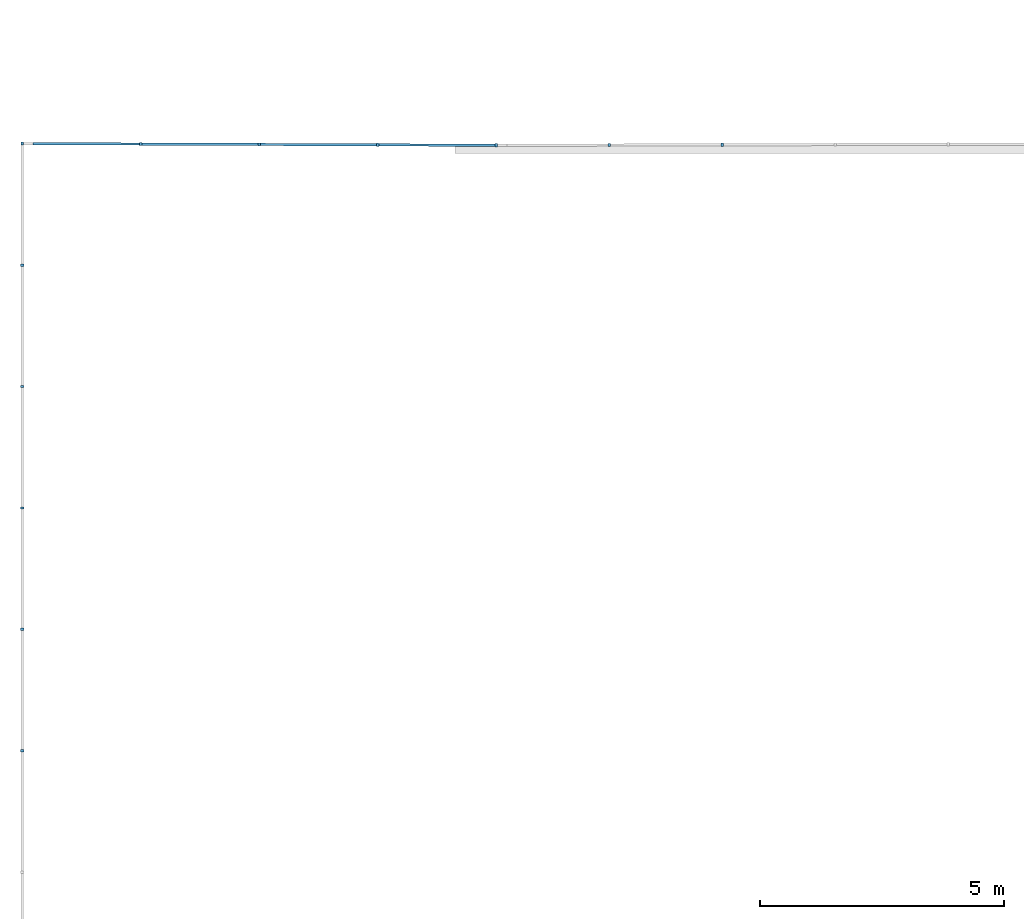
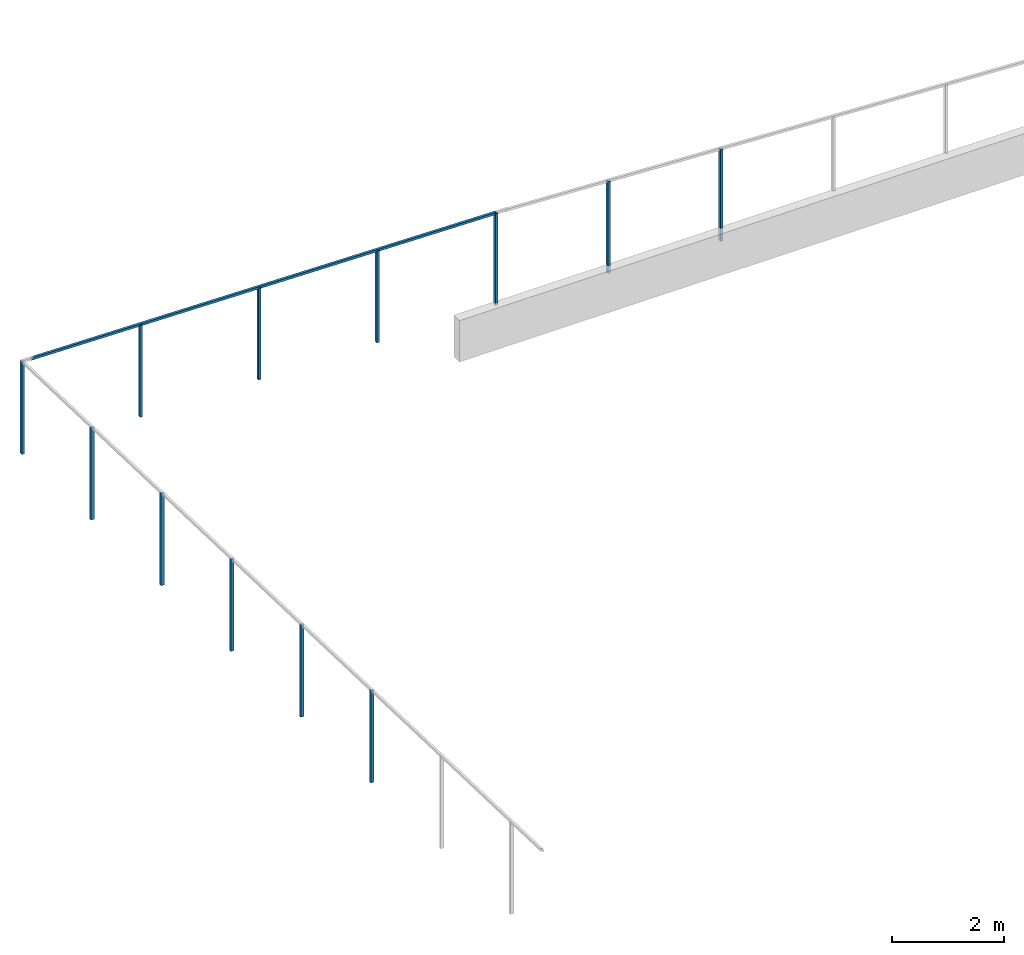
# One storey, part 62 of 91: 13 building element parts, 1 element without a shape of its own.
"""IFC2X3 building model written with IfcOpenShell, lengths in metres."""

from ifc_helpers import new_model, entity, si_unit, converted_unit, derived_unit, money_unit, direction, frame, origin_with_axes, place, context, subcontext, project, spatial, faceted_brep, material, type_object, element, aggregate, save


model = new_model("IFC2X3")

# Units and contexts
model_context = context("Model", 3, precision=1e-05, world=origin_with_axes(), true_north=direction((0.0, 1.0)))
body_context = subcontext(model_context, "Body", "Model", "MODEL_VIEW")
ifc_project = project(units=[si_unit("LENGTHUNIT", "METRE"), si_unit("AREAUNIT", "SQUARE_METRE"), si_unit("VOLUMEUNIT", "CUBIC_METRE"), converted_unit("PLANEANGLEUNIT", "DEGREE", entity("IfcPlaneAngleMeasure", 0.0174532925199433), si_unit("PLANEANGLEUNIT", "RADIAN"), dimensions=[0, 0, 0, 0, 0, 0, 0]), money_unit("EUR"), converted_unit("TIMEUNIT", "Year", entity("IfcTimeMeasure", 31557600.0), si_unit("TIMEUNIT", "SECOND"), dimensions=[0, 0, 1, 0, 0, 0, 0]), si_unit("MASSUNIT", "GRAM", prefix="KILO"), si_unit("THERMODYNAMICTEMPERATUREUNIT", "DEGREE_CELSIUS"), si_unit("LUMINOUSINTENSITYUNIT", "LUMEN"), si_unit("ENERGYUNIT", "JOULE", prefix="MEGA"), derived_unit("THERMALCONDUCTANCEUNIT", [(si_unit("POWERUNIT", "WATT"), 1), (si_unit("LENGTHUNIT", "METRE"), -1), (si_unit("THERMODYNAMICTEMPERATUREUNIT", "KELVIN"), -1)]), derived_unit("SPECIFICHEATCAPACITYUNIT", [(si_unit("ENERGYUNIT", "JOULE"), 1), (si_unit("MASSUNIT", "GRAM", prefix="KILO"), -1), (si_unit("THERMODYNAMICTEMPERATUREUNIT", "KELVIN"), -1)]), derived_unit("MASSDENSITYUNIT", [(si_unit("MASSUNIT", "GRAM", prefix="KILO"), 1), (si_unit("VOLUMEUNIT", "CUBIC_METRE"), -1)])], contexts=[model_context])

# Site, building, storey
site_placement = place(None, origin_with_axes())
site = spatial("IfcSite", under=ifc_project, at=site_placement, Name="Site", CompositionType="ELEMENT")
building_placement = place(site_placement, origin_with_axes())
building = spatial("IfcBuilding", under=site, at=building_placement, Name="Bâtiment", CompositionType="ELEMENT")
storey_placement = place(building_placement, origin_with_axes())
storey = spatial("IfcBuildingStorey", under=building, at=storey_placement, Name="RDC", CompositionType="ELEMENT", Elevation=0.0)

# Proxy, building element parts
building_element_proxy_type = type_object("IfcBuildingElementProxyType", Name="Type de garde-corps", PredefinedType="NOTDEFINED")
proxy_placement = place(storey_placement, frame((79.63337255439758, 3.614023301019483, -2.37161404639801), z_axis=(0.0, 0.0, 1.0), x_axis=(1.0, 0.0, 0.0)))
proxy = element("IfcBuildingElementProxy", 1, at=proxy_placement, inside=storey, type_object=building_element_proxy_type, Name="RAMPE-004")
ifc_material = material(Name="Acier Galva")
building_element_part_1_placement = place(proxy_placement, origin_with_axes())
building_element_part_1 = element("IfcBuildingElementPart", 2, at=building_element_part_1_placement, material=ifc_material, Name="Acier Galva", context=body_context, shape_type="Brep", body=[
    faceted_brep([(-69.99485317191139, 3.37907067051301, 3.22141820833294), (-69.9946994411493, 3.313070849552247, 3.221415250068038), (-69.9946994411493, 3.313070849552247, 5.221415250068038), (-69.99485317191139, 3.37907067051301, 5.22141820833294), (-69.9448533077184, 3.379187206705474, 3.219778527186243), (-69.94469957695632, 3.313187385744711, 3.219775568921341), (-69.94469957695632, 3.313187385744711, 5.219775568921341), (-69.9448533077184, 3.379187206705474, 5.219778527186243)], [[[0, 1, 2, 3]], [[0, 4, 5, 1]], [[1, 5, 6, 2]], [[3, 2, 6, 7]], [[4, 0, 3, 7]], [[5, 4, 7, 6]]]),
])
building_element_part_2_placement = place(proxy_placement, origin_with_axes())
building_element_part_2 = element("IfcBuildingElementPart", 3, at=building_element_part_2_placement, material=ifc_material, Name="Acier Galva", context=body_context, shape_type="Brep", body=[
    faceted_brep([(-79.71945202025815, 3.412831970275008, 3.371441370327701), (-79.7196719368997, 3.346832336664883, 3.372511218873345), (-79.71967605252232, 3.346832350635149, 5.37175721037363), (-79.6694523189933, 3.412659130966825, 3.371056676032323), (-79.66967223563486, 3.346659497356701, 3.372126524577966), (-79.66967635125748, 3.346659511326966, 5.37175721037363), (-79.71944790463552, 3.412831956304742, 5.37175721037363), (-79.66944820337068, 3.41265911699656, 5.37175721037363)], [[[0, 1, 2]], [[0, 3, 4, 1]], [[1, 4, 5, 2]], [[0, 2, 6]], [[3, 0, 6, 7]], [[4, 3, 7]], [[4, 7, 5]], [[6, 2, 5, 7]]]),
])
building_element_part_3_placement = place(proxy_placement, origin_with_axes())
building_element_part_3 = element("IfcBuildingElementPart", 4, at=building_element_part_3_placement, material=ifc_material, Name="Acier Galva", context=body_context, shape_type="Brep", body=[
    faceted_brep([(-65.35998740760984, 3.389873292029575, 2.989598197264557), (-65.35983357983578, 3.32387347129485, 2.989598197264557), (-65.35983357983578, 3.323873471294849, 4.989598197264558), (-65.35998740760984, 3.389873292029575, 4.989598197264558), (-65.30998754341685, 3.389989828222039, 2.987092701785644), (-65.30983371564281, 3.323990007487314, 2.987092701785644), (-65.30983371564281, 3.323990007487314, 4.987092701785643), (-65.30998754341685, 3.389989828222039, 4.987092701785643)], [[[0, 1, 2, 3]], [[0, 4, 5, 1]], [[1, 5, 6, 2]], [[3, 2, 6, 7]], [[4, 0, 3, 7]], [[5, 4, 7, 6]]]),
])
building_element_part_4_placement = place(proxy_placement, origin_with_axes())
building_element_part_4 = element("IfcBuildingElementPart", 5, at=building_element_part_4_placement, material=ifc_material, Name="Acier Galva", context=body_context, shape_type="Brep", body=[
    faceted_brep([(-67.6774203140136, 3.384471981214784, 3.105724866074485), (-67.67726648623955, 3.318472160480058, 3.105724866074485), (-67.67726648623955, 3.318472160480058, 5.105724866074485), (-67.6774203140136, 3.384471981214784, 5.105724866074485), (-67.62742044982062, 3.384588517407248, 3.103219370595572), (-67.62726662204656, 3.318588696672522, 3.103219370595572), (-67.62726662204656, 3.318588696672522, 5.103219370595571), (-67.62742044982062, 3.384588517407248, 5.103219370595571)], [[[0, 1, 2, 3]], [[0, 4, 5, 1]], [[1, 5, 6, 2]], [[3, 2, 6, 7]], [[4, 0, 3, 7]], [[5, 4, 7, 6]]]),
])
building_element_part_5_placement = place(proxy_placement, origin_with_axes())
building_element_part_5 = element("IfcBuildingElementPart", 6, at=building_element_part_5_placement, material=ifc_material, Name="Acier Galva", context=body_context, shape_type="Brep", body=[
    faceted_brep([(-69.96956859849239, 3.371129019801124, 5.245594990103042), (-69.96995600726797, 3.371129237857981, 5.195594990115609), (-79.51947680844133, 3.404140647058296, 5.343588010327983), (-69.96959674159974, 3.32112881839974, 5.245594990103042), (-69.96998415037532, 3.321129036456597, 5.195594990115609), (-79.5196496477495, 3.354140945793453, 5.343588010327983), (-79.46947710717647, 3.403967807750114, 5.392819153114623), (-79.46964994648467, 3.353968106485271, 5.392819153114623)], [[[0, 1, 2]], [[0, 3, 4, 1]], [[1, 5, 2]], [[0, 2, 6]], [[3, 0, 6]], [[4, 3, 7]], [[1, 4, 5]], [[6, 2, 5, 7]], [[3, 6, 7]], [[4, 7, 5]]]),
])
building_element_part_6_placement = place(proxy_placement, origin_with_axes())
building_element_part_6 = element("IfcBuildingElementPart", 7, at=building_element_part_6_placement, material=ifc_material, Name="Acier Galva", context=body_context, shape_type="Brep", body=[
    faceted_brep([(-74.8571708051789, 3.396024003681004, 3.296338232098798), (-74.8573989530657, 3.33002439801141, 3.296338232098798), (-74.8573989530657, 3.33002439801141, 5.296338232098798), (-74.8571708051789, 3.396024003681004, 5.296338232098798), (-74.80717110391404, 3.395851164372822, 3.295563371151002), (-74.80739925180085, 3.329851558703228, 3.295563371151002), (-74.80739925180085, 3.329851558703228, 5.295563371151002), (-74.80717110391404, 3.395851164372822, 5.295563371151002)], [[[0, 1, 2, 3]], [[0, 4, 5, 1]], [[1, 5, 6, 2]], [[3, 2, 6, 7]], [[4, 0, 3, 7]], [[5, 4, 7, 6]]]),
])
building_element_part_7_placement = place(proxy_placement, origin_with_axes())
building_element_part_7 = element("IfcBuildingElementPart", 8, at=building_element_part_7_placement, material=ifc_material, Name="Acier Galva", context=body_context, shape_type="Brep", body=[
    faceted_brep([(-77.28836725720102, 3.404428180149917, 3.334015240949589), (-77.28859540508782, 3.338428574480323, 3.334015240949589), (-77.28859540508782, 3.338428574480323, 5.334015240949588), (-77.28836725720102, 3.404428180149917, 5.334015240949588), (-77.23836755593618, 3.404255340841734, 3.333240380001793), (-77.23859570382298, 3.338255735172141, 3.333240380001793), (-77.23859570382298, 3.338255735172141, 5.333240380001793), (-77.23836755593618, 3.404255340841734, 5.333240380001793)], [[[0, 1, 2, 3]], [[0, 4, 5, 1]], [[1, 5, 6, 2]], [[3, 2, 6, 7]], [[4, 0, 3, 7]], [[5, 4, 7, 6]]]),
])
building_element_part_8_placement = place(proxy_placement, origin_with_axes())
building_element_part_8 = element("IfcBuildingElementPart", 9, at=building_element_part_8_placement, material=ifc_material, Name="Acier Galva", context=body_context, shape_type="Brep", body=[
    faceted_brep([(-72.42597435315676, 3.387619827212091, 3.258661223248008), (-72.42620250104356, 3.321620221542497, 3.258661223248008), (-72.42620250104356, 3.321620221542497, 5.258661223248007), (-72.42597435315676, 3.387619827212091, 5.258661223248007), (-72.37597465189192, 3.387446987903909, 3.257886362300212), (-72.37620279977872, 3.321447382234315, 3.257886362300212), (-72.37620279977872, 3.321447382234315, 5.257886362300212), (-72.37597465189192, 3.387446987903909, 5.257886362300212)], [[[0, 1, 2, 3]], [[0, 4, 5, 1]], [[1, 5, 6, 2]], [[3, 2, 6, 7]], [[4, 0, 3, 7]], [[5, 4, 7, 6]]]),
])
building_element_part_9_placement = place(proxy_placement, origin_with_axes())
building_element_part_9 = element("IfcBuildingElementPart", 10, at=building_element_part_9_placement, material=ifc_material, Name="Acier Galva", context=body_context, shape_type="Brep", body=[
    faceted_brep([(-79.72752220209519, 0.8634855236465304, 3.453862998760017), (-79.66152220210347, 0.8634865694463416, 3.453862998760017), (-79.66152220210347, 0.8634865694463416, 5.453862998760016), (-79.72752220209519, 0.8634855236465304, 5.453862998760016), (-79.72752299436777, 0.9134855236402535, 3.45224158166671), (-79.66152299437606, 0.9134865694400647, 3.45224158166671), (-79.66152299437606, 0.9134865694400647, 5.45224158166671), (-79.72752299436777, 0.9134855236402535, 5.45224158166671)], [[[0, 1, 2, 3]], [[0, 4, 5, 1]], [[1, 5, 6, 2]], [[3, 2, 6, 7]], [[4, 0, 3, 7]], [[5, 4, 7, 6]]]),
])
building_element_part_10_placement = place(proxy_placement, origin_with_axes())
building_element_part_10 = element("IfcBuildingElementPart", 11, at=building_element_part_10_placement, material=ifc_material, Name="Acier Galva", context=body_context, shape_type="Brep", body=[
    faceted_brep([(-79.72748272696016, -1.627774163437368, 3.5346504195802), (-79.66148272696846, -1.627773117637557, 3.5346504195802), (-79.66148272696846, -1.627773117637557, 5.534650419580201), (-79.72748272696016, -1.627774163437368, 5.534650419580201), (-79.72748351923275, -1.577774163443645, 3.533029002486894), (-79.66148351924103, -1.577773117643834, 3.533029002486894), (-79.66148351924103, -1.577773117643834, 5.533029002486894), (-79.72748351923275, -1.577774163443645, 5.533029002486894)], [[[0, 1, 2, 3]], [[0, 4, 5, 1]], [[1, 5, 6, 2]], [[3, 2, 6, 7]], [[4, 0, 3, 7]], [[5, 4, 7, 6]]]),
])
building_element_part_11_placement = place(proxy_placement, origin_with_axes())
building_element_part_11 = element("IfcBuildingElementPart", 12, at=building_element_part_11_placement, material=ifc_material, Name="Acier Galva", context=body_context, shape_type="Brep", body=[
    faceted_brep([(-79.72744325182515, -4.119033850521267, 3.615437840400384), (-79.66144325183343, -4.119032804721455, 3.615437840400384), (-79.66144325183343, -4.119032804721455, 5.615437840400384), (-79.72744325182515, -4.119033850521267, 5.615437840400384), (-79.72744404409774, -4.069033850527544, 3.613816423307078), (-79.66144404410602, -4.069032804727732, 3.613816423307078), (-79.66144404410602, -4.069032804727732, 5.613816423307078), (-79.72744404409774, -4.069033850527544, 5.613816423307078)], [[[0, 1, 2, 3]], [[0, 4, 5, 1]], [[1, 5, 6, 2]], [[3, 2, 6, 7]], [[4, 0, 3, 7]], [[5, 4, 7, 6]]]),
])
building_element_part_12_placement = place(proxy_placement, origin_with_axes())
building_element_part_12 = element("IfcBuildingElementPart", 13, at=building_element_part_12_placement, material=ifc_material, Name="Acier Galva", context=body_context, shape_type="Brep", body=[
    faceted_brep([(-79.72740377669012, -6.610293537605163, 3.696225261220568), (-79.66140377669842, -6.610292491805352, 3.696225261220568), (-79.66140377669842, -6.610292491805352, 5.696225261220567), (-79.72740377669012, -6.610293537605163, 5.696225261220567), (-79.72740456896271, -6.56029353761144, 3.694603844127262), (-79.661404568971, -6.560292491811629, 3.694603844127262), (-79.661404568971, -6.560292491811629, 5.694603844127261), (-79.72740456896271, -6.56029353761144, 5.694603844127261)], [[[0, 1, 2, 3]], [[0, 4, 5, 1]], [[1, 5, 6, 2]], [[3, 2, 6, 7]], [[4, 0, 3, 7]], [[5, 4, 7, 6]]]),
])
building_element_part_13_placement = place(proxy_placement, origin_with_axes())
building_element_part_13 = element("IfcBuildingElementPart", 14, at=building_element_part_13_placement, material=ifc_material, Name="Acier Galva", context=body_context, shape_type="Brep", body=[
    faceted_brep([(-79.72736430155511, -9.101553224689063, 3.777012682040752), (-79.6613643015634, -9.10155217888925, 3.777012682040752), (-79.6613643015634, -9.10155217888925, 5.777012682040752), (-79.72736430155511, -9.101553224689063, 5.777012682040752), (-79.7273650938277, -9.05155322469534, 3.775391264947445), (-79.66136509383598, -9.051552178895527, 3.775391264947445), (-79.66136509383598, -9.051552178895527, 5.775391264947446), (-79.7273650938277, -9.05155322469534, 5.775391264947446)], [[[0, 1, 2, 3]], [[0, 4, 5, 1]], [[1, 5, 6, 2]], [[3, 2, 6, 7]], [[4, 0, 3, 7]], [[5, 4, 7, 6]]]),
])
aggregate(proxy, [building_element_part_1, building_element_part_2, building_element_part_3, building_element_part_4, building_element_part_5, building_element_part_6, building_element_part_7, building_element_part_8, building_element_part_9, building_element_part_10, building_element_part_11, building_element_part_12, building_element_part_13])

save(model, "model.ifc")
